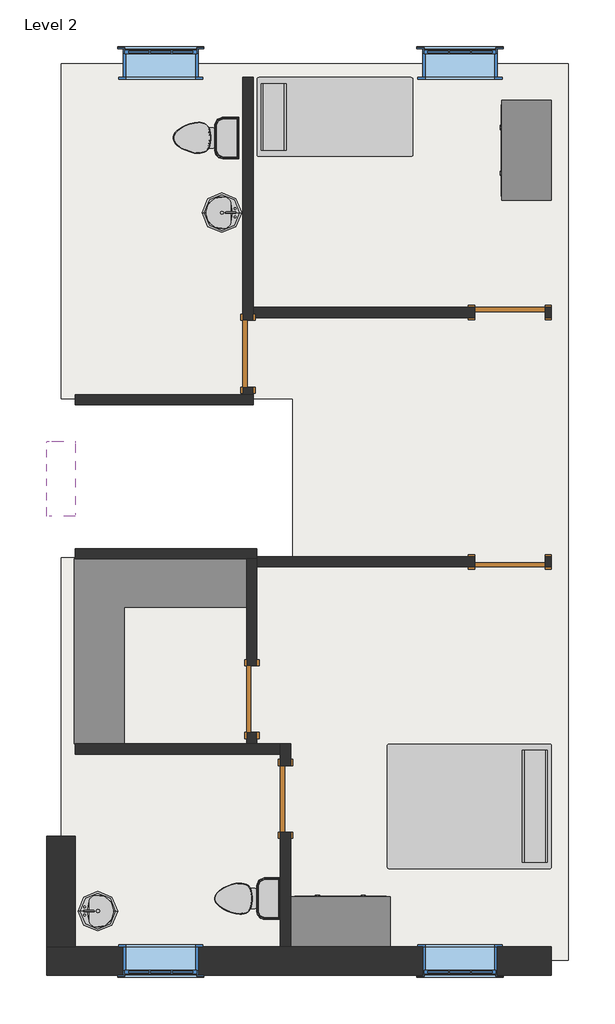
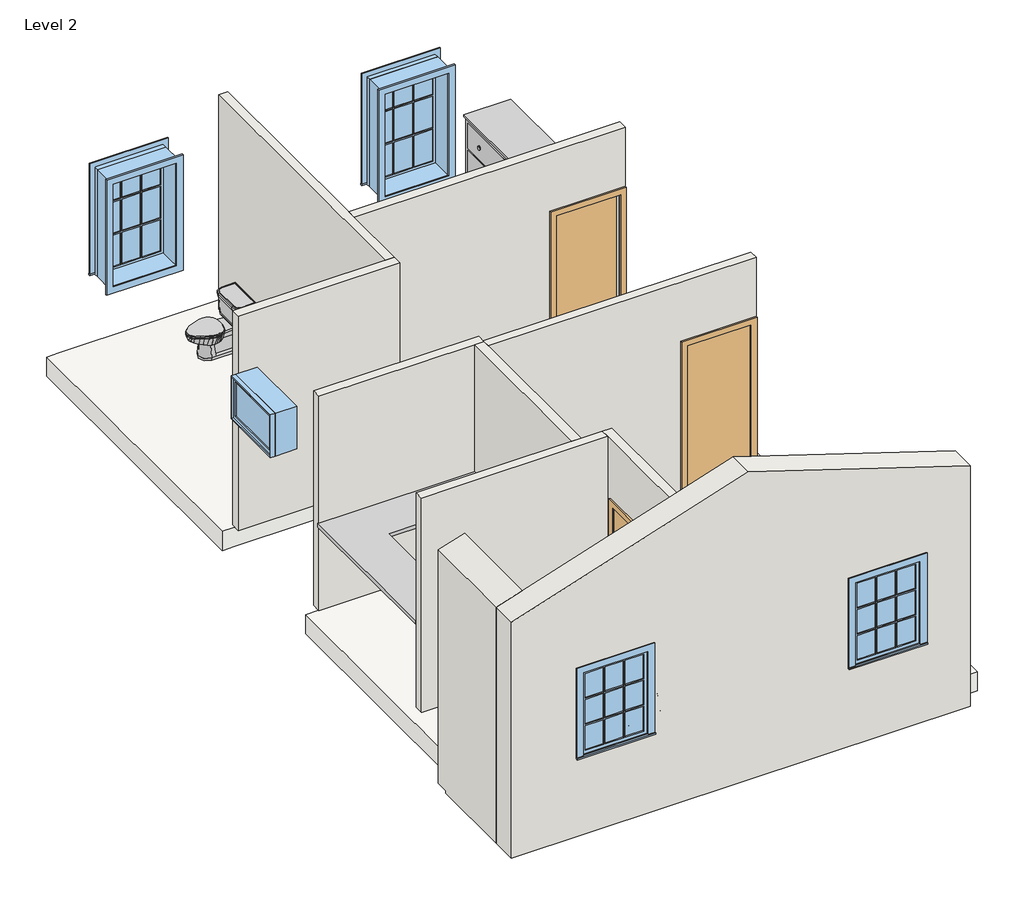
# One storey, incomplete: 10 walls, 5 doors, 5 furniture elements, 5 windows, 4 flow terminals, 1 slab.
"""IFC4 building model written with IfcOpenShell, lengths in millimetres."""

from ifc_helpers import new_model, si_unit, frame, origin, place, context, project, spatial, polyline, outline, extrude, faceted_brep, transform, mapped, element, save
from components import door_8a652669, door_d21431a2, door_7c9e1b45, door_3b0d1d25, flow_terminal_5184717d, toilet_domestic_3d_toilet_domestic_3d_f7549cf7, toilet_domestic_3d_toilet_domestic_3d_183bbd19, furniture_e1791683, furniture_a07fae8b, furniture_9fa109b2, furniture_1_furniture_1_2df0764f, window_c29ce2a5, window_2a808394, window_50e48787

model = new_model("IFC4")

# Units and contexts
model_context = context("Model", 3, world=origin())
ifc_project = project(units=[si_unit("LENGTHUNIT", "METRE", prefix="MILLI")], contexts=[model_context])

# Site, building, storey
site = spatial("IfcSite", under=ifc_project)
building = spatial("IfcBuilding", under=site)
storey = spatial("IfcBuildingStorey", under=building, Name="Level 2", Elevation=3048.0)

# Doors
placement = place(None, origin())
door_shape = door_8a652669(model_context)
element("IfcDoor", 1, ObjectType="Single-Flush : 32\" x 84\"", at=placement, inside=storey, context=model_context, shape_type="MappedRepresentation", body=[
    mapped(door_shape, transform((-5314.6266822, -4470.9546527, 3048.0), x_axis=(0.0, 1.0, 0.0), y_axis=(-1.0, 0.0, 0.0), z_axis=(0.0, 0.0, 1.0))),
])
door_2_shape = door_d21431a2(model_context)
element("IfcDoor", 2, ObjectType="Single-Flush : 32\" x 84\"", at=placement, inside=storey, context=model_context, shape_type="MappedRepresentation", body=[
    mapped(door_2_shape, transform((-5771.8266822, 969.6718598, 3048.0), x_axis=(0.0, -1.0, 0.0), y_axis=(1.0, 0.0, 0.0), z_axis=(0.0, 0.0, 1.0))),
])
element("IfcDoor", 3, ObjectType="Single-Flush : 32\" x 84\"", at=placement, inside=storey, context=model_context, shape_type="MappedRepresentation", body=[
    mapped(door_2_shape, transform((-5724.9141822, -3251.7546527, 3048.0), x_axis=(0.0, -1.0, 0.0), y_axis=(1.0, 0.0, 0.0), z_axis=(0.0, 0.0, 1.0))),
])
door_3_shape = door_7c9e1b45(model_context)
element("IfcDoor", 4, ObjectType="Single-Flush : 34\" x 84\"", at=placement, inside=storey, context=model_context, shape_type="MappedRepresentation", body=[
    mapped(door_3_shape, transform((-2571.4266822, 1474.2328473, 3048.0), x_axis=(1.0, 0.0, 0.0), y_axis=(0.0, 1.0, 0.0), z_axis=(0.0, 0.0, 1.0))),
])
door_4_shape = door_3b0d1d25(model_context)
element("IfcDoor", 5, ObjectType="Single-Flush : 34\" x 84\"", at=placement, inside=storey, context=model_context, shape_type="MappedRepresentation", body=[
    mapped(door_4_shape, transform((-2571.4266822, -1573.7671527, 3048.0), x_axis=(1.0, 0.0, 0.0), y_axis=(0.0, 1.0, 0.0), z_axis=(0.0, 0.0, 1.0))),
])

# Flow terminals
flow_terminal_shape = flow_terminal_5184717d(model_context)
element("IfcFlowTerminal", 6, ObjectType="Sink Vanity-Round : 19\" x 19\"", at=placement, inside=storey, context=model_context, shape_type="MappedRepresentation", body=[
    mapped(flow_terminal_shape, transform((-6177.1574587, 2790.0845878, 3048.0), x_axis=(0.0, -1.0, 0.0), y_axis=(1.0, 0.0, 0.0), z_axis=(0.0, 0.0, 1.0))),
])
element("IfcFlowTerminal", 7, ObjectType="Sink Vanity-Round : 19\" x 19\"", at=placement, inside=storey, context=model_context, shape_type="MappedRepresentation", body=[
    mapped(flow_terminal_shape, transform((-7521.1129549, -5937.6188933, 3048.0), x_axis=(0.0, 1.0000000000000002, 0.0), y_axis=(-1.0000000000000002, 0.0, 0.0), z_axis=(0.0, 0.0, 1.0))),
])
toilet_domestic_3d_toilet_domestic_3d_shape = toilet_domestic_3d_toilet_domestic_3d_f7549cf7(model_context)
toilet_domestic_3d_toilet_domestic_3d_2_shape = toilet_domestic_3d_toilet_domestic_3d_183bbd19(model_context)
element("IfcFlowTerminal", 8, ObjectType="Toilet-Domestic-3D : Toilet-Domestic-3D", at=placement, inside=storey, context=model_context, shape_type="MappedRepresentation", body=[
    mapped(toilet_domestic_3d_toilet_domestic_3d_shape, transform((-5871.2352095, -5688.5671527, 3048.0), x_axis=(0.0, -1.0, 0.0), y_axis=(1.0, 0.0, 0.0), z_axis=(0.0, 0.0, 1.0))),
    mapped(toilet_domestic_3d_toilet_domestic_3d_2_shape, transform((-5871.2352095, -5688.5671527, 3048.0), x_axis=(0.0, -1.0, 0.0), y_axis=(1.0, 0.0, 0.0), z_axis=(0.0, 0.0, 1.0))),
])
element("IfcFlowTerminal", 9, ObjectType="Toilet-Domestic-3D : Toilet-Domestic-3D", at=placement, inside=storey, context=model_context, shape_type="MappedRepresentation", body=[
    mapped(toilet_domestic_3d_toilet_domestic_3d_shape, transform((-6381.4266822, 3607.8328473, 3048.0), x_axis=(0.0, -1.0, 0.0), y_axis=(1.0, 0.0, 0.0), z_axis=(0.0, 0.0, 1.0))),
    mapped(toilet_domestic_3d_toilet_domestic_3d_2_shape, transform((-6381.4266822, 3607.8328473, 3048.0), x_axis=(0.0, -1.0, 0.0), y_axis=(1.0, 0.0, 0.0), z_axis=(0.0, 0.0, 1.0))),
])

# Furniture
furniture_shape = furniture_e1791683(model_context)
element("IfcFurniture", 10, ObjectType="Bed-Standard : Queen 60\" x 79\"", at=placement, inside=storey, context=model_context, shape_type="MappedRepresentation", body=[
    mapped(furniture_shape, transform((-3021.1316002, -4289.9536282, 3048.0), x_axis=(0.0, -0.9999999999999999, 0.0), y_axis=(0.9999999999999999, 0.0, 0.0), z_axis=(0.0, 0.0, 1.0))),
])
furniture_2_shape = furniture_a07fae8b(model_context)
element("IfcFurniture", 11, ObjectType="Bed-Standard : Twin 38\" x 75\"", at=placement, inside=storey, context=model_context, shape_type="MappedRepresentation", body=[
    mapped(furniture_2_shape, transform((-4754.9217641, 3591.9318227, 3048.0), x_axis=(0.0, 1.0, 0.0), y_axis=(-1.0, 0.0, 0.0), z_axis=(0.0, 0.0, 1.0))),
])
furniture_3_shape = furniture_9fa109b2(model_context)
element("IfcFurniture", 12, ObjectType="Dresser : 48\" x 72\" x 24\"", at=placement, inside=storey, context=model_context, shape_type="MappedRepresentation", body=[
    mapped(furniture_3_shape, transform((-2005.0637281, 3186.2395874, 3048.0), x_axis=(0.0, -1.0, 0.0), y_axis=(1.0, 0.0, 0.0), z_axis=(0.0, 0.0, 1.0))),
])
element("IfcFurniture", 13, ObjectType="Dresser : 48\" x 72\" x 24\"", at=placement, inside=storey, context=model_context, shape_type="MappedRepresentation", body=[
    mapped(furniture_3_shape, transform((-4912.307442, -6332.7176068, 3048.0), x_axis=(-1.0000000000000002, 0.0, 0.0), y_axis=(0.0, -1.0000000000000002, 0.0), z_axis=(0.0, 0.0, 1.0))),
])
furniture_1_furniture_1_shape = furniture_1_furniture_1_2df0764f(model_context)
element("IfcFurniture", 14, ObjectType="Furniture 1 : Furniture 1", at=placement, inside=storey, context=model_context, shape_type="MappedRepresentation", body=[
    mapped(furniture_1_furniture_1_shape, transform((0.0, 0.0, 0.0), x_axis=(1.0, 0.0, 0.0), y_axis=(0.0, 1.0, 0.0), z_axis=(0.0, 0.0, 1.0))),
])

# Slab
element("IfcSlab", 15, ObjectType="Wood Joist 10\" - Ceramic Tile", at=placement, inside=storey, context=model_context, shape_type="Brep", body=[
    faceted_brep([(-8053.6141822, 422.1593598, 2774.95), (-8053.6141822, 4511.1203473, 2774.95), (-7881.6141822, 4511.1203473, 2774.95), (-2063.4266822, 4511.1203473, 2774.95), (-1860.2266822, 4511.1203473, 2774.95), (-1860.2266822, -6439.4546527, 2774.95), (-2063.4266822, -6439.4546527, 2774.95), (-8053.6141822, -6439.4546527, 2774.95), (-8053.6141822, -6274.3546527, 2774.95), (-8053.6141822, -4926.5671527, 2774.95), (-8053.6141822, -1525.6656402, 2774.95), (-7881.6141822, -1525.6656402, 2774.95), (-5223.3266822, -1525.6656402, 2774.95), (-5223.3266822, 422.1593598, 2774.95), (-7881.6141822, 422.1593598, 2774.95), (-8053.6141822, 422.1593598, 3048.0), (-7881.6141822, 422.1593598, 3048.0), (-5223.3266822, 422.1593598, 3048.0), (-5223.3266822, -1525.6656402, 3048.0), (-7881.6141822, -1525.6656402, 3048.0), (-8053.6141822, -1525.6656402, 3048.0), (-8053.6141822, -4926.5671527, 3048.0), (-8053.6141822, -6274.3546527, 3048.0), (-8053.6141822, -6439.4546527, 3048.0), (-2063.4266822, -6439.4546527, 3048.0), (-1860.2266822, -6439.4546527, 3048.0), (-1860.2266822, 4511.1203473, 3048.0), (-2063.4266822, 4511.1203473, 3048.0), (-7881.6141822, 4511.1203473, 3048.0), (-8053.6141822, 4511.1203473, 3048.0)], [[[0, 1, 2, 3, 4, 5, 6, 7, 8, 9, 10, 11, 12, 13, 14]], [[15, 16, 17, 18, 19, 20, 21, 22, 23, 24, 25, 26, 27, 28, 29]], [[1, 0, 15, 29]], [[4, 3, 2, 1, 29, 28, 27, 26]], [[5, 4, 26, 25]], [[7, 6, 5, 25, 24, 23]], [[10, 9, 8, 7, 23, 22, 21, 20]], [[12, 11, 10, 20, 19, 18]], [[13, 12, 18, 17]], [[0, 14, 13, 17, 16, 15]]]),
])

# Walls
element("IfcWall", 16, ObjectType="Exterior - Brick on Mtl. Stud", at=placement, inside=storey, context=model_context, shape_type="Brep", body=[
    faceted_brep([(-8234.0391822, -6626.7796527, 2743.2), (-2063.4266822, -6626.7796527, 2743.2), (-2063.4266822, -6626.7796527, 6161.1994485), (-5047.1329322, -6626.7796527, 7118.5616629), (-8234.0391822, -6626.7796527, 6096.0), (-7295.8266822, -6626.7796527, 3848.0), (-7295.8266822, -6626.7796527, 5067.2), (-6381.4266822, -6626.7796527, 5067.2), (-6381.4266822, -6626.7796527, 3848.0), (-3638.2266822, -6626.7796527, 3848.0), (-3638.2266822, -6626.7796527, 5067.2), (-2723.8266822, -6626.7796527, 5067.2), (-2723.8266822, -6626.7796527, 3848.0), (-2063.4266822, -6274.3546527, 2743.2), (-7881.6141822, -6274.3546527, 2743.2), (-8234.0391822, -6274.3546527, 2743.2), (-8234.0391822, -6274.3546527, 6096.0), (-7881.6141822, -6274.3546527, 6209.0802935), (-5047.1329322, -6274.3546527, 7118.5616629), (-2063.4266822, -6274.3546527, 6161.1994485), (-2063.4266822, -6274.3546527, 3048.0), (-5252.7141822, -6274.3546527, 3048.0), (-5376.5391822, -6274.3546527, 3048.0), (-8053.6141822, -6274.3546527, 3048.0), (-8053.6141822, -6274.3546527, 2774.95), (-2063.4266822, -6274.3546527, 2774.95), (-7295.8266822, -6274.3546527, 5067.2), (-7295.8266822, -6274.3546527, 3848.0), (-6381.4266822, -6274.3546527, 3848.0), (-6381.4266822, -6274.3546527, 5067.2), (-3638.2266822, -6274.3546527, 5067.2), (-3638.2266822, -6274.3546527, 3848.0), (-2723.8266822, -6274.3546527, 3848.0), (-2723.8266822, -6274.3546527, 5067.2), (-2063.4266822, -6439.4546527, 2774.95), (-2063.4266822, -6439.4546527, 3048.0), (-8053.6141822, -6439.4546527, 2774.95), (-8053.6141822, -6439.4546527, 3048.0)], [[[0, 1, 2, 3, 4], [5, 6, 7, 8], [9, 10, 11, 12]], [[13, 14, 15, 16, 17, 18, 19, 20, 21, 22, 23, 24, 25], [26, 27, 28, 29], [30, 31, 32, 33]], [[1, 0, 15, 14, 13]], [[0, 4, 16, 15]], [[2, 1, 13, 25, 34, 35, 20, 19]], [[16, 4, 3, 18, 17]], [[2, 19, 18, 3]], [[27, 26, 6, 5]], [[28, 27, 5, 8]], [[29, 28, 8, 7]], [[26, 29, 7, 6]], [[31, 30, 10, 9]], [[32, 31, 9, 12]], [[33, 32, 12, 11]], [[30, 33, 11, 10]], [[24, 36, 34, 25]], [[35, 37, 23, 22, 21, 20]], [[36, 37, 35, 34]], [[37, 36, 24, 23]]]),
])
element("IfcWall", 17, ObjectType="Exterior - Brick on Mtl. Stud", at=placement, inside=storey, context=model_context, shape_type="Brep", body=[
    faceted_brep([(-8234.0391822, -5102.7796527, 2743.2), (-8234.0391822, -6274.3546527, 2743.2), (-8234.0391822, -6274.3546527, 6096.0), (-8234.0391822, -4926.5671527, 6096.0), (-8234.0391822, -4926.5671527, 2774.95), (-8234.0391822, -5102.7796527, 2774.95), (-7881.6141822, -5102.7796527, 2743.2), (-7881.6141822, -5102.7796527, 2774.95), (-7881.6141822, -4926.5671527, 2774.95), (-7881.6141822, -4926.5671527, 6209.0802935), (-7881.6141822, -6274.3546527, 6209.0802935), (-7881.6141822, -6274.3546527, 2743.2)], [[[0, 1, 2, 3, 4, 5]], [[6, 7, 8, 9, 10, 11]], [[1, 0, 6, 11]], [[2, 1, 11, 10]], [[4, 3, 9, 8]], [[4, 8, 7, 5]], [[0, 5, 7, 6]], [[3, 2, 10, 9]]]),
])
element("IfcWall", 18, ObjectType="Interior - 4 7/8\" Partition (1-hr)", at=placement, inside=storey, context=model_context, shape_type="Brep", body=[
    faceted_brep([(-7881.6141822, 345.5203473, 3048.0), (-5709.9141822, 345.5203473, 3048.0), (-5709.9141822, 345.5203473, 6096.0), (-7881.6141822, 345.5203473, 6096.0), (-7881.6141822, 469.3453473, 3048.0), (-7881.6141822, 469.3453473, 6096.0), (-5833.7391822, 469.3453473, 6096.0), (-5709.9141822, 469.3453473, 6096.0), (-5709.9141822, 469.3453473, 3048.0), (-5833.7391822, 469.3453473, 3048.0)], [[[0, 1, 2, 3]], [[4, 5, 6, 7, 8, 9]], [[1, 0, 4, 9, 8]], [[3, 2, 7, 6, 5]], [[2, 1, 8, 7]], [[0, 3, 5, 4]]]),
])
element("IfcWall", 19, ObjectType="Interior - 4 7/8\" Partition (1-hr)", at=placement, inside=storey, context=model_context, shape_type="Brep", body=[
    faceted_brep([(-5709.9141822, 469.3453473, 3048.0), (-5709.9141822, 563.2718598, 3048.0), (-5709.9141822, 563.2718598, 5181.6), (-5709.9141822, 1376.0718598, 5181.6), (-5709.9141822, 1376.0718598, 3048.0), (-5709.9141822, 1412.3203473, 3048.0), (-5709.9141822, 1536.1453473, 3048.0), (-5709.9141822, 4346.0203473, 3048.0), (-5709.9141822, 4346.0203473, 6096.0), (-5709.9141822, 1536.1453473, 6096.0), (-5709.9141822, 1412.3203473, 6096.0), (-5709.9141822, 469.3453473, 6096.0), (-5833.7391822, 563.2718598, 5181.6), (-5833.7391822, 563.2718598, 3048.0), (-5833.7391822, 469.3453473, 3048.0), (-5833.7391822, 469.3453473, 6096.0), (-5833.7391822, 4346.0203473, 6096.0), (-5833.7391822, 4346.0203473, 3048.0), (-5833.7391822, 1376.0718598, 3048.0), (-5833.7391822, 1376.0718598, 5181.6)], [[[0, 1, 2, 3, 4, 5, 6, 7, 8, 9, 10, 11]], [[12, 13, 14, 15, 16, 17, 18, 19]], [[14, 13, 1, 0]], [[18, 17, 7, 6, 5, 4]], [[11, 10, 9, 8, 16, 15]], [[0, 11, 15, 14]], [[8, 7, 17, 16]], [[2, 1, 13, 12]], [[3, 2, 12, 19]], [[4, 3, 19, 18]]]),
])
element("IfcWall", 20, ObjectType="Interior - 4 7/8\" Partition (1-hr)", at=placement, inside=storey, context=model_context, shape_type="SweptSolid", body=[
    extrude(outline(polyline([(5181.6, -2139.6266822), (3048.0, -2139.6266822), (3048.0, -2063.4266822), (6096.0, -2063.4266822), (6096.0, -5709.9141822), (3048.0, -5709.9141822), (3048.0, -3003.2266822), (5181.6, -3003.2266822), (5181.6, -2139.6266822)])), frame((0.0, 1412.3203473, 0.0), z_axis=(0.0, 1.0, 0.0), x_axis=(0.0, 0.0, 1.0)), (0.0, 0.0, 1.0), 123.825),
])
element("IfcWall", 21, ObjectType="Interior - 4 7/8\" Partition (1-hr)", at=placement, inside=storey, context=model_context, shape_type="Brep", body=[
    faceted_brep([(-7881.6141822, -1534.0796527, 3048.0), (-5786.8266822, -1534.0796527, 3048.0), (-5663.0016822, -1534.0796527, 3048.0), (-5663.0016822, -1534.0796527, 6096.0), (-5786.8266822, -1534.0796527, 6096.0), (-7881.6141822, -1534.0796527, 6096.0), (-7881.6141822, -1410.2546527, 3048.0), (-7881.6141822, -1410.2546527, 6096.0), (-5663.0016822, -1410.2546527, 6096.0), (-5663.0016822, -1410.2546527, 3048.0)], [[[0, 1, 2, 3, 4, 5]], [[6, 7, 8, 9]], [[2, 1, 0, 6, 9]], [[5, 4, 3, 8, 7]], [[3, 2, 9, 8]], [[0, 5, 7, 6]]]),
])
element("IfcWall", 22, ObjectType="Interior - 4 7/8\" Partition (1-hr)", at=placement, inside=storey, context=model_context, shape_type="Brep", body=[
    faceted_brep([(-5376.5391822, -3797.8546527, 3048.0), (-5663.0016822, -3797.8546527, 3048.0), (-5786.8266822, -3797.8546527, 3048.0), (-7881.6141822, -3797.8546527, 3048.0), (-7881.6141822, -3797.8546527, 6096.0), (-5786.8266822, -3797.8546527, 6096.0), (-5663.0016822, -3797.8546527, 6096.0), (-5376.5391822, -3797.8546527, 6096.0), (-5376.5391822, -3921.6796527, 3048.0), (-5376.5391822, -3921.6796527, 6096.0), (-7881.6141822, -3921.6796527, 6096.0), (-7881.6141822, -3921.6796527, 3048.0)], [[[0, 1, 2, 3, 4, 5, 6, 7]], [[8, 9, 10, 11]], [[3, 2, 1, 0, 8, 11]], [[7, 6, 5, 4, 10, 9]], [[0, 7, 9, 8]], [[4, 3, 11, 10]]]),
])
element("IfcWall", 23, ObjectType="Interior - 4 7/8\" Partition (1-hr)", at=placement, inside=storey, context=model_context, shape_type="Brep", body=[
    faceted_brep([(-2139.6266822, -1635.6796527, 5181.6), (-2139.6266822, -1635.6796527, 3048.0), (-2063.4266822, -1635.6796527, 3048.0), (-2063.4266822, -1635.6796527, 6096.0), (-5663.0016822, -1635.6796527, 6096.0), (-5663.0016822, -1635.6796527, 3048.0), (-3003.2266822, -1635.6796527, 3048.0), (-3003.2266822, -1635.6796527, 5181.6), (-2063.4266822, -1511.8546527, 3048.0), (-2139.6266822, -1511.8546527, 3048.0), (-2139.6266822, -1511.8546527, 5181.6), (-3003.2266822, -1511.8546527, 5181.6), (-3003.2266822, -1511.8546527, 3048.0), (-5663.0016822, -1511.8546527, 3048.0), (-5663.0016822, -1511.8546527, 6096.0), (-2063.4266822, -1511.8546527, 6096.0), (-5663.0016822, -1534.0796527, 3048.0), (-5663.0016822, -1534.0796527, 6096.0)], [[[0, 1, 2, 3, 4, 5, 6, 7]], [[8, 9, 10, 11, 12, 13, 14, 15]], [[2, 1, 9, 8]], [[6, 5, 16, 13, 12]], [[4, 3, 15, 14, 17]], [[5, 4, 17, 14, 13, 16]], [[3, 2, 8, 15]], [[10, 9, 1, 0]], [[11, 10, 0, 7]], [[12, 11, 7, 6]]]),
])
element("IfcWall", 24, ObjectType="Interior - 4 7/8\" Partition (1-hr)", at=placement, inside=storey, context=model_context, shape_type="Brep", body=[
    faceted_brep([(-5663.0016822, -3797.8546527, 3048.0), (-5663.0016822, -3658.1546527, 3048.0), (-5663.0016822, -3658.1546527, 5181.6), (-5663.0016822, -2845.3546527, 5181.6), (-5663.0016822, -2845.3546527, 3048.0), (-5663.0016822, -1635.6796527, 3048.0), (-5663.0016822, -1534.0796527, 3048.0), (-5663.0016822, -1534.0796527, 6096.0), (-5663.0016822, -1635.6796527, 6096.0), (-5663.0016822, -3797.8546527, 6096.0), (-5786.8266822, -3658.1546527, 5181.6), (-5786.8266822, -3658.1546527, 3048.0), (-5786.8266822, -3797.8546527, 3048.0), (-5786.8266822, -3797.8546527, 6096.0), (-5786.8266822, -1534.0796527, 6096.0), (-5786.8266822, -1534.0796527, 3048.0), (-5786.8266822, -2845.3546527, 3048.0), (-5786.8266822, -2845.3546527, 5181.6)], [[[0, 1, 2, 3, 4, 5, 6, 7, 8, 9]], [[10, 11, 12, 13, 14, 15, 16, 17]], [[12, 11, 1, 0]], [[16, 15, 6, 5, 4]], [[9, 8, 7, 14, 13]], [[7, 6, 15, 14]], [[0, 9, 13, 12]], [[2, 1, 11, 10]], [[3, 2, 10, 17]], [[4, 3, 17, 16]]]),
])
element("IfcWall", 25, ObjectType="Interior - 4 7/8\" Partition (1-hr)", at=placement, inside=storey, context=model_context, shape_type="Brep", body=[
    faceted_brep([(-5252.7141822, -3797.8546527, 6096.0), (-5252.7141822, -6274.3546527, 6096.0), (-5252.7141822, -6274.3546527, 3048.0), (-5252.7141822, -4877.3546527, 3048.0), (-5252.7141822, -4877.3546527, 5181.6), (-5252.7141822, -4064.5546527, 5181.6), (-5252.7141822, -4064.5546527, 3048.0), (-5252.7141822, -3797.8546527, 3048.0), (-5376.5391822, -6274.3546527, 6096.0), (-5376.5391822, -3921.6796527, 6096.0), (-5376.5391822, -3797.8546527, 6096.0), (-5376.5391822, -3797.8546527, 3048.0), (-5376.5391822, -3921.6796527, 3048.0), (-5376.5391822, -4064.5546527, 3048.0), (-5376.5391822, -4064.5546527, 5181.6), (-5376.5391822, -4877.3546527, 5181.6), (-5376.5391822, -4877.3546527, 3048.0), (-5376.5391822, -6274.3546527, 3048.0)], [[[0, 1, 2, 3, 4, 5, 6, 7]], [[8, 9, 10, 11, 12, 13, 14, 15, 16, 17]], [[11, 7, 6, 13, 12]], [[2, 17, 16, 3]], [[1, 0, 10, 9, 8]], [[0, 7, 11, 10]], [[2, 1, 8, 17]], [[5, 14, 13, 6]], [[14, 5, 4, 15]], [[15, 4, 3, 16]]]),
])

# Windows
window_shape = window_c29ce2a5(model_context)
element("IfcWindow", 26, ObjectType="Casement 3x3 with Trim : 36\" x 48\"", at=placement, inside=storey, context=model_context, shape_type="MappedRepresentation", body=[
    mapped(window_shape, transform((-6838.6266822, -6450.5671527, 2933.6), x_axis=(-1.0, 0.0, 0.0), y_axis=(0.0, -1.0, 0.0), z_axis=(0.0, 0.0, 1.0))),
])
element("IfcWindow", 27, ObjectType="Casement 3x3 with Trim : 36\" x 48\"", at=placement, inside=storey, context=model_context, shape_type="MappedRepresentation", body=[
    mapped(window_shape, transform((-3181.0266822, -6450.5671527, 2933.6), x_axis=(-1.0, 0.0, 0.0), y_axis=(0.0, -1.0, 0.0), z_axis=(0.0, 0.0, 1.0))),
])
window_2_shape = window_2a808394(model_context)
element("IfcWindow", 28, ObjectType="Casement 3x3 with Trim : 36\" x 60\"", at=placement, inside=storey, context=model_context, shape_type="MappedRepresentation", body=[
    mapped(window_2_shape, transform((-3181.0266822, 4522.2328473, 3238.4), x_axis=(1.0, 0.0, 0.0), y_axis=(0.0, 1.0, 0.0), z_axis=(0.0, 0.0, 1.0))),
])
element("IfcWindow", 29, ObjectType="Casement 3x3 with Trim : 36\" x 60\"", at=placement, inside=storey, context=model_context, shape_type="MappedRepresentation", body=[
    mapped(window_2_shape, transform((-6838.6266822, 4522.2328473, 3238.4), x_axis=(1.0, 0.0, 0.0), y_axis=(0.0, 1.0, 0.0), z_axis=(0.0, 0.0, 1.0))),
])
window_3_shape = window_50e48787(model_context)
element("IfcWindow", 30, ObjectType="Fixed : 36\" x 24\"", at=placement, inside=storey, context=model_context, shape_type="MappedRepresentation", body=[
    mapped(window_3_shape, transform((-8057.8266822, -518.7406402, 4117.4025508), x_axis=(0.0, 1.0, 0.0), y_axis=(-1.0, 0.0, 0.0), z_axis=(0.0, 0.0, 1.0))),
])

save(model, "model.ifc")
